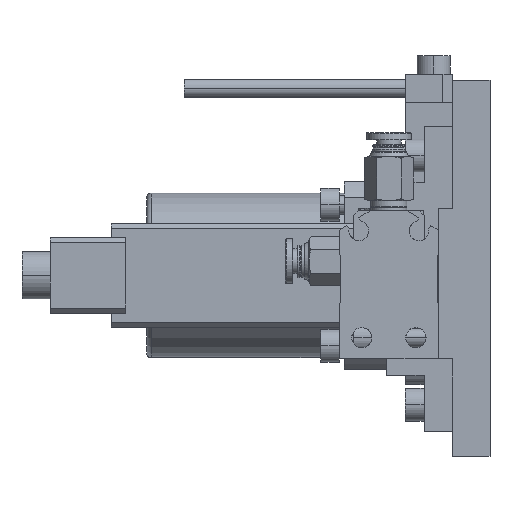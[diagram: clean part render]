
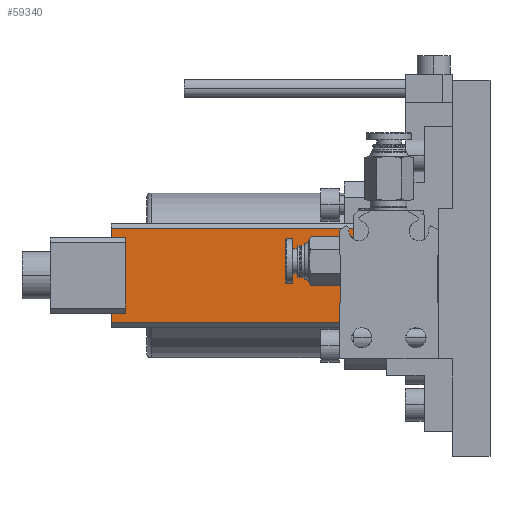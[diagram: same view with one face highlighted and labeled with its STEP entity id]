
A CAD part, front view. The second image highlights one B-rep face of the part: STEP entity #59340.
In plain terms, the highlighted planar face has unit normal (0, -1, 0) as drawn and (0, 1, 0) by its records, which use the part's own axes.
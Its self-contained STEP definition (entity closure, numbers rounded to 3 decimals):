
#59216=CARTESIAN_POINT('Vertex',(-10.,10.,4.5)) ;
#59219=CARTESIAN_POINT('Line Origine',(0.,10.,4.5)) ;
#59223=CARTESIAN_POINT('Vertex',(10.,10.,4.5)) ;
#59259=CARTESIAN_POINT('Line Origine',(10.,10.,31.25)) ;
#59263=CARTESIAN_POINT('Vertex',(10.,10.,58.)) ;
#59285=CARTESIAN_POINT('Axis2P3D Location',(-11.,10.,0.)) ;
#59290=CARTESIAN_POINT('Line Origine',(-10.,10.,31.25)) ;
#59294=CARTESIAN_POINT('Vertex',(-10.,10.,58.)) ;
#59297=CARTESIAN_POINT('Line Origine',(-9.,10.,58.)) ;
#59301=CARTESIAN_POINT('Vertex',(-8.,10.,58.)) ;
#59304=CARTESIAN_POINT('Line Origine',(-8.,10.,56.5)) ;
#59308=CARTESIAN_POINT('Vertex',(-8.,10.,55.)) ;
#59311=CARTESIAN_POINT('Line Origine',(0.,10.,55.)) ;
#59315=CARTESIAN_POINT('Vertex',(8.,10.,55.)) ;
#59318=CARTESIAN_POINT('Line Origine',(8.,10.,56.5)) ;
#59322=CARTESIAN_POINT('Vertex',(8.,10.,58.)) ;
#59325=CARTESIAN_POINT('Line Origine',(9.,10.,58.)) ;
#59220=DIRECTION('Vector Direction',(1.,0.,0.)) ;
#59260=DIRECTION('Vector Direction',(0.,0.,1.)) ;
#59286=DIRECTION('Axis2P3D Direction',(0.,-1.,0.)) ;
#59287=DIRECTION('Axis2P3D XDirection',(1.,0.,0.)) ;
#59291=DIRECTION('Vector Direction',(0.,0.,1.)) ;
#59298=DIRECTION('Vector Direction',(1.,0.,0.)) ;
#59305=DIRECTION('Vector Direction',(0.,0.,1.)) ;
#59312=DIRECTION('Vector Direction',(-1.,0.,0.)) ;
#59319=DIRECTION('Vector Direction',(0.,0.,1.)) ;
#59326=DIRECTION('Vector Direction',(1.,0.,0.)) ;
#59288=AXIS2_PLACEMENT_3D('Plane Axis2P3D',#59285,#59286,#59287) ;
#59331=ORIENTED_EDGE('',*,*,#59225,.F.) ;
#59332=ORIENTED_EDGE('',*,*,#59296,.F.) ;
#59333=ORIENTED_EDGE('',*,*,#59303,.F.) ;
#59334=ORIENTED_EDGE('',*,*,#59310,.F.) ;
#59335=ORIENTED_EDGE('',*,*,#59317,.F.) ;
#59336=ORIENTED_EDGE('',*,*,#59324,.T.) ;
#59337=ORIENTED_EDGE('',*,*,#59329,.F.) ;
#59338=ORIENTED_EDGE('',*,*,#59265,.T.) ;
#59221=VECTOR('Line Direction',#59220,1.) ;
#59261=VECTOR('Line Direction',#59260,1.) ;
#59292=VECTOR('Line Direction',#59291,1.) ;
#59299=VECTOR('Line Direction',#59298,1.) ;
#59306=VECTOR('Line Direction',#59305,1.) ;
#59313=VECTOR('Line Direction',#59312,1.) ;
#59320=VECTOR('Line Direction',#59319,1.) ;
#59327=VECTOR('Line Direction',#59326,1.) ;
#59340=ADVANCED_FACE('\X2\96F64EF651E04F554F53\X0\',(#59339),#59289,.F.) ;
#59225=EDGE_CURVE('',#59217,#59224,#59222,.T.) ;
#59265=EDGE_CURVE('',#59264,#59224,#59262,.F.) ;
#59296=EDGE_CURVE('',#59295,#59217,#59293,.F.) ;
#59303=EDGE_CURVE('',#59302,#59295,#59300,.F.) ;
#59310=EDGE_CURVE('',#59309,#59302,#59307,.T.) ;
#59317=EDGE_CURVE('',#59316,#59309,#59314,.T.) ;
#59324=EDGE_CURVE('',#59316,#59323,#59321,.T.) ;
#59329=EDGE_CURVE('',#59264,#59323,#59328,.F.) ;
#59330=EDGE_LOOP('',(#59331,#59332,#59333,#59334,#59335,#59336,#59337,#59338)) ;
#59339=FACE_OUTER_BOUND('',#59330,.T.) ;
#59222=LINE('Line',#59219,#59221) ;
#59262=LINE('Line',#59259,#59261) ;
#59293=LINE('Line',#59290,#59292) ;
#59300=LINE('Line',#59297,#59299) ;
#59307=LINE('Line',#59304,#59306) ;
#59314=LINE('Line',#59311,#59313) ;
#59321=LINE('Line',#59318,#59320) ;
#59328=LINE('Line',#59325,#59327) ;
#59289=PLANE('Plane',#59288) ;
#59217=VERTEX_POINT('',#59216) ;
#59224=VERTEX_POINT('',#59223) ;
#59264=VERTEX_POINT('',#59263) ;
#59295=VERTEX_POINT('',#59294) ;
#59302=VERTEX_POINT('',#59301) ;
#59309=VERTEX_POINT('',#59308) ;
#59316=VERTEX_POINT('',#59315) ;
#59323=VERTEX_POINT('',#59322) ;
